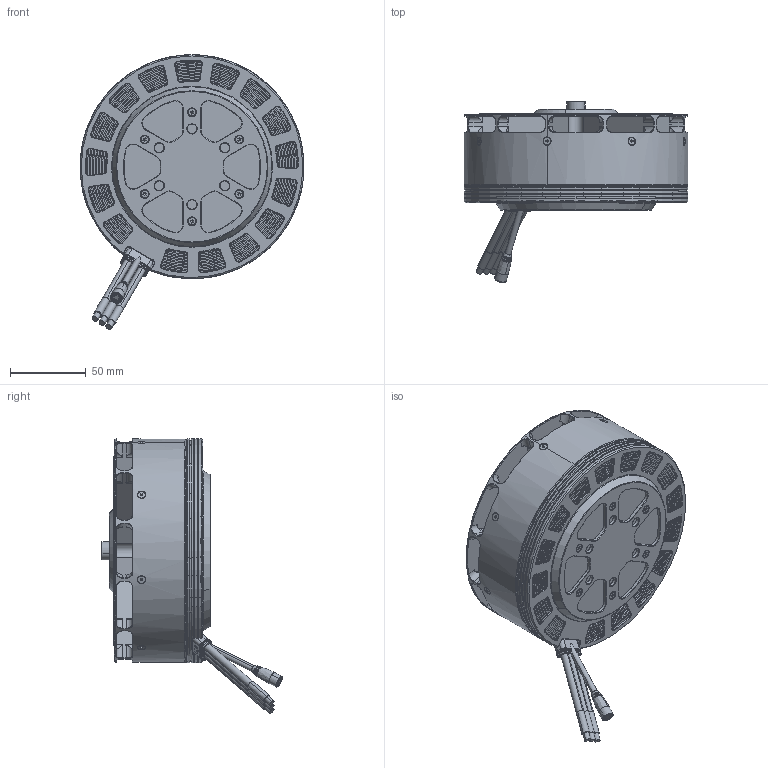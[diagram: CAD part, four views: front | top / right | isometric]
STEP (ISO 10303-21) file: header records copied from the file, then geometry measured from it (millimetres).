
FILE_DESCRIPTION (( 'STEP AP214' ), '1' );
FILE_NAME ('HW-V13823-60KV-3D-勤俋-20260430.STEP', '2026-04-30T01:45:25', ( '' ), ( '' ), 'SwSTEP 2.0', 'SolidWorks 2021', '' );
FILE_SCHEMA (( 'AUTOMOTIVE_DESIGN' ));
Length unit declared in the file: millimetre
Products named in the file (1): HW-V13823-60KV-3D-勤俋-20260430
Bounding box: 147.9 x 119.28 x 181.28 mm (x, y, z)
Volume: 890181 mm3; surface area: 142840 mm2
Topology: 37 solids, 71 shells, 4190 faces, 11362 edges, 7030 vertices
Faces by surface type: plane 2203, cylinder 922, bspline 562, cone 462, torus 35, sphere 6
Entity records: 203101 total; most frequent: CARTESIAN_POINT 55816, ORIENTED_EDGE 22596, DIRECTION 19408, EDGE_CURVE 11298, VERTEX_POINT 7030, VECTOR 6868, LINE 6868, AXIS2_PLACEMENT_3D 6270
